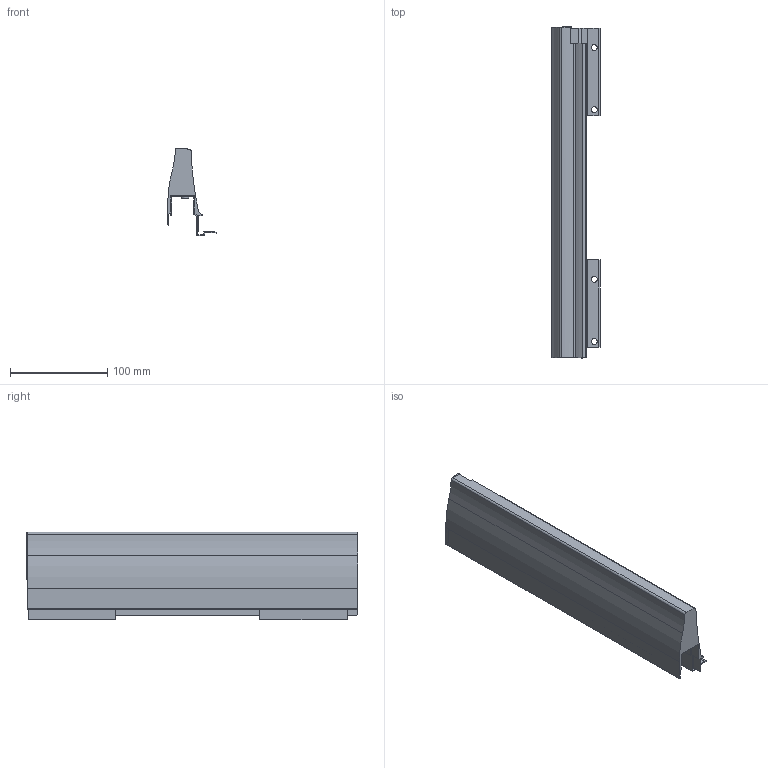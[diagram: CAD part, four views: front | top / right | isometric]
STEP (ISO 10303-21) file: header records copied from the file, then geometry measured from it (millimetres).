
FILE_DESCRIPTION (( 'STEP AP214' ), '1' );
FILE_NAME ('_XP Standard Dekorseite H95 NL350 LI .step', '2010-07-14T06:09:07', ( 'grass' ), ( '' ), 'SwSTEP 2.0', 'SolidWorks 2010', '' );
FILE_SCHEMA (( 'AUTOMOTIVE_DESIGN' ));
Length unit declared in the file: millimetre
Products named in the file (1): _XP Standard Dekorseite H95 NL350 LI  
Bounding box: 50.01 x 341.5 x 90 mm (x, y, z)
Volume: 412018.6 mm3; surface area: 111803.7 mm2
Topology: 1 solids, 1 shells, 105 faces, 306 edges, 200 vertices
Faces by surface type: plane 79, cylinder 26
Entity records: 3497 total; most frequent: CARTESIAN_POINT 612, ORIENTED_EDGE 612, DIRECTION 573, EDGE_CURVE 306, LINE 251, VECTOR 251, VERTEX_POINT 200, AXIS2_PLACEMENT_3D 161
